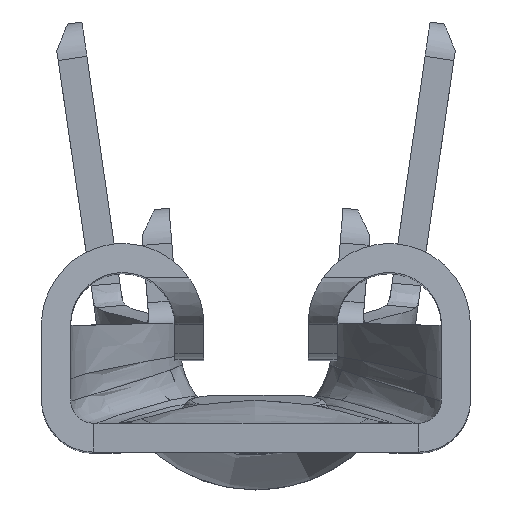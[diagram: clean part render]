
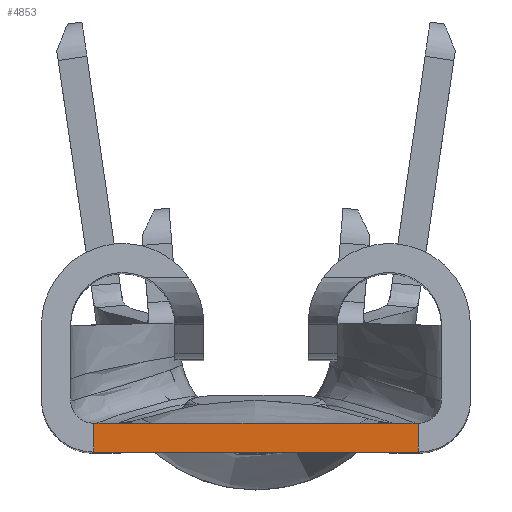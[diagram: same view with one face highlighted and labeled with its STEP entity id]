
A CAD part, top view. The second image highlights one B-rep face of the part: STEP entity #4853.
In plain terms, the highlighted planar face has unit normal (0, 0, 1).
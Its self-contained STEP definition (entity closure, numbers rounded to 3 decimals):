
#36=DIRECTION('',(1.,0.,0.));
#37=VECTOR('',#36,0.172);
#38=CARTESIAN_POINT('',(-1.4,0.,
0.));
#39=LINE('',#38,#37);
#43=CARTESIAN_POINT('',(-0.907,0.,0.));
#44=CARTESIAN_POINT('',(-1.014,0.,
0.));
#45=CARTESIAN_POINT('',(-1.121,0.,
0.));
#46=CARTESIAN_POINT('',(-1.228,0.,0.));
#70=DIRECTION('',(0.,-1.,0.));
#71=VECTOR('',#70,0.25);
#72=CARTESIAN_POINT('',(-1.4,0.25,0.));
#73=LINE('',#72,#71);
#92=CARTESIAN_POINT('',(-1.4,0.,
0.));
#1842=CARTESIAN_POINT('',(0.89,0.,0.));
#1843=CARTESIAN_POINT('',(0.815,0.,
0.));
#1844=CARTESIAN_POINT('',(0.665,0.,
0.));
#1845=CARTESIAN_POINT('',(0.366,0.,
0.));
#1846=CARTESIAN_POINT('',(-0.008,0.,
0.));
#1847=CARTESIAN_POINT('',(-0.383,0.,
0.));
#1848=CARTESIAN_POINT('',(-0.682,0.,
0.));
#1849=CARTESIAN_POINT('',(-0.832,0.,
0.));
#1850=CARTESIAN_POINT('',(-0.907,0.,0.));
#1880=CARTESIAN_POINT('',(1.211,0.,0.));
#1881=CARTESIAN_POINT('',(1.104,0.,
0.));
#1882=CARTESIAN_POINT('',(0.997,0.,
0.));
#1883=CARTESIAN_POINT('',(0.89,0.,0.));
#1914=DIRECTION('',(1.,0.,0.));
#1915=VECTOR('',#1914,0.189);
#1916=CARTESIAN_POINT('',(1.211,0.,0.));
#1917=LINE('',#1916,#1915);
#1936=CARTESIAN_POINT('',(1.4,0.,
0.));
#1941=DIRECTION('',(0.,-1.,0.));
#1942=VECTOR('',#1941,0.25);
#1943=CARTESIAN_POINT('',(1.4,0.25,0.));
#1944=LINE('',#1943,#1942);
#1963=DIRECTION('',(1.,0.,0.));
#1964=VECTOR('',#1963,0.189);
#1965=CARTESIAN_POINT('',(1.211,0.25,
0.));
#1966=LINE('',#1965,#1964);
#2000=CARTESIAN_POINT('',(0.89,0.25,
0.));
#2001=CARTESIAN_POINT('',(0.926,0.25,
0.));
#2002=CARTESIAN_POINT('',(0.997,0.25,
0.));
#2003=CARTESIAN_POINT('',(1.103,0.25,
0.));
#2004=CARTESIAN_POINT('',(1.175,0.25,
0.));
#2005=CARTESIAN_POINT('',(1.211,0.25,
0.));
#2023=CARTESIAN_POINT('',(-0.907,0.25,
0.));
#2024=CARTESIAN_POINT('',(-0.708,0.25,
0.));
#2025=CARTESIAN_POINT('',(-0.308,0.252,
0.));
#2026=CARTESIAN_POINT('',(0.291,0.252,
0.));
#2027=CARTESIAN_POINT('',(0.691,0.25,
0.));
#2028=CARTESIAN_POINT('',(0.89,0.25,
0.));
#2056=CARTESIAN_POINT('',(-1.228,0.25,
0.));
#2057=CARTESIAN_POINT('',(-1.192,0.25,
0.));
#2058=CARTESIAN_POINT('',(-1.121,0.25,
0.));
#2059=CARTESIAN_POINT('',(-1.014,0.25,
0.));
#2060=CARTESIAN_POINT('',(-0.943,0.25,
0.));
#2061=CARTESIAN_POINT('',(-0.907,0.25,
0.));
#4235=DIRECTION('',(1.,0.,0.));
#4236=VECTOR('',#4235,0.172);
#4237=CARTESIAN_POINT('',(-1.4,0.25,0.));
#4238=LINE('',#4237,#4236);
#4304=VERTEX_POINT('',#92);
#4545=VERTEX_POINT('',#1936);
#4736=CARTESIAN_POINT('',(-1.228,0.,0.));
#4737=VERTEX_POINT('',#4736);
#4738=VERTEX_POINT('',#43);
#4739=CARTESIAN_POINT('',(-1.4,0.25,0.));
#4740=VERTEX_POINT('',#4739);
#4741=CARTESIAN_POINT('',(-1.228,0.25,
0.));
#4742=VERTEX_POINT('',#4741);
#4743=CARTESIAN_POINT('',(1.211,0.25,
0.));
#4744=CARTESIAN_POINT('',(1.4,0.25,0.));
#4745=VERTEX_POINT('',#4743);
#4746=VERTEX_POINT('',#4744);
#4747=VERTEX_POINT('',#2000);
#4748=VERTEX_POINT('',#2023);
#4749=CARTESIAN_POINT('',(1.211,0.,0.));
#4750=VERTEX_POINT('',#4749);
#4751=VERTEX_POINT('',#1883);
#4824=CARTESIAN_POINT('',(2.053,2.835,0.));
#4825=DIRECTION('',(0.,0.,-1.));
#4826=DIRECTION('',(-1.,0.,0.));
#4827=AXIS2_PLACEMENT_3D('',#4824,#4825,#4826);
#4828=PLANE('',#4827);
#4829=ORIENTED_EDGE('',*,*,#4780,.F.);
#4831=ORIENTED_EDGE('',*,*,#4830,.F.);
#4833=ORIENTED_EDGE('',*,*,#4832,.T.);
#4835=ORIENTED_EDGE('',*,*,#4834,.T.);
#4837=ORIENTED_EDGE('',*,*,#4836,.T.);
#4839=ORIENTED_EDGE('',*,*,#4838,.T.);
#4841=ORIENTED_EDGE('',*,*,#4840,.T.);
#4843=ORIENTED_EDGE('',*,*,#4842,.T.);
#4845=ORIENTED_EDGE('',*,*,#4844,.F.);
#4847=ORIENTED_EDGE('',*,*,#4846,.T.);
#4849=ORIENTED_EDGE('',*,*,#4848,.T.);
#4850=ORIENTED_EDGE('',*,*,#4814,.T.);
#4851=EDGE_LOOP('',(#4829,#4831,#4833,#4835,#4837,#4839,#4841,#4843,#4845,#4847,
#4849,#4850));
#4852=FACE_OUTER_BOUND('',#4851,.F.);
#4853=ADVANCED_FACE('',(#4852),#4828,.F.);
#47=B_SPLINE_CURVE_WITH_KNOTS('',3,(#43,#44,#45,#46),.UNSPECIFIED.,.F.,.F.,(4,
4),(0.,1.),.UNSPECIFIED.);
#1851=B_SPLINE_CURVE_WITH_KNOTS('',3,(#1842,#1843,#1844,#1845,#1846,#1847,#1848,
#1849,#1850),.UNSPECIFIED.,.F.,.F.,(4,1,1,1,1,1,4),(0.,0.125,
0.25,0.5,0.75,0.875,1.),
.UNSPECIFIED.);
#1884=B_SPLINE_CURVE_WITH_KNOTS('',3,(#1880,#1881,#1882,#1883),.UNSPECIFIED.,
.F.,.F.,(4,4),(0.,1.),.UNSPECIFIED.);
#2006=B_SPLINE_CURVE_WITH_KNOTS('',3,(#2000,#2001,#2002,#2003,#2004,#2005),
.UNSPECIFIED.,.F.,.F.,(4,1,1,4),(0.,0.333,0.667,1.),
.UNSPECIFIED.);
#2029=B_SPLINE_CURVE_WITH_KNOTS('',3,(#2023,#2024,#2025,#2026,#2027,#2028),
.UNSPECIFIED.,.F.,.F.,(4,1,1,4),(0.,0.333,0.667,1.),
.UNSPECIFIED.);
#2062=B_SPLINE_CURVE_WITH_KNOTS('',3,(#2056,#2057,#2058,#2059,#2060,#2061),
.UNSPECIFIED.,.F.,.F.,(4,1,1,4),(0.,0.333,0.667,1.),
.UNSPECIFIED.);
#4780=EDGE_CURVE('',#4304,#4737,#39,.T.);
#4814=EDGE_CURVE('',#4738,#4737,#47,.T.);
#4830=EDGE_CURVE('',#4740,#4304,#73,.T.);
#4832=EDGE_CURVE('',#4740,#4742,#4238,.T.);
#4834=EDGE_CURVE('',#4742,#4748,#2062,.T.);
#4836=EDGE_CURVE('',#4748,#4747,#2029,.T.);
#4838=EDGE_CURVE('',#4747,#4745,#2006,.T.);
#4840=EDGE_CURVE('',#4745,#4746,#1966,.T.);
#4842=EDGE_CURVE('',#4746,#4545,#1944,.T.);
#4844=EDGE_CURVE('',#4750,#4545,#1917,.T.);
#4846=EDGE_CURVE('',#4750,#4751,#1884,.T.);
#4848=EDGE_CURVE('',#4751,#4738,#1851,.T.);
